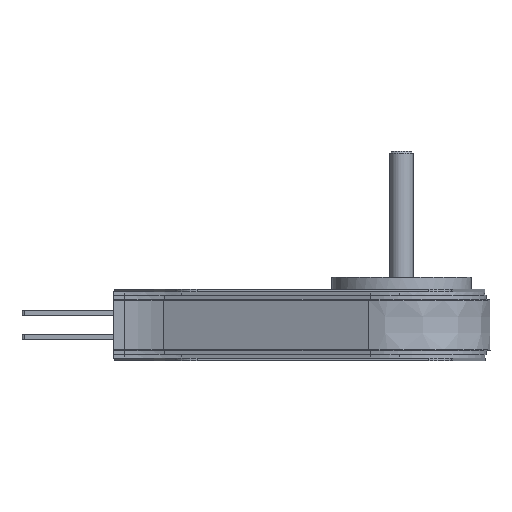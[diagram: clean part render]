
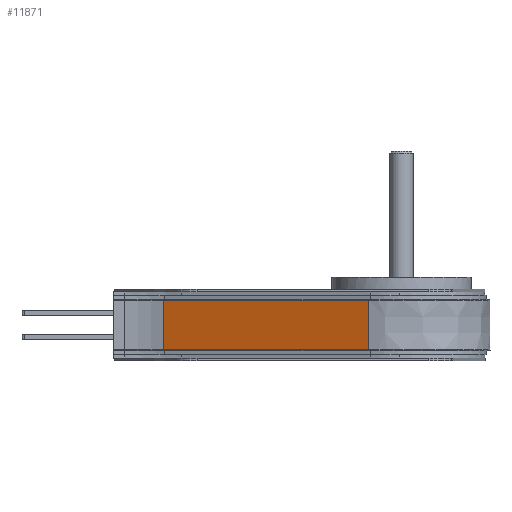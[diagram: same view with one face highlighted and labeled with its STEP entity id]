
A CAD part, front view. The second image highlights one B-rep face of the part: STEP entity #11871.
In plain terms, the highlighted planar face has unit normal (-0.373, -0.928, 0).
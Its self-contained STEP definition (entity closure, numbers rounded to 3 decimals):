
#265 = DIRECTION ( 'NONE',  ( -0.373, -0.928, 0. ) ) ;
#1340 = ORIENTED_EDGE ( 'NONE', *, *, #17311, .T. ) ;
#1656 = CARTESIAN_POINT ( 'NONE',  ( -28.41, -70.61, 21.5 ) ) ;
#2043 = PLANE ( 'NONE',  #12005 ) ;
#2457 = ORIENTED_EDGE ( 'NONE', *, *, #11935, .T. ) ;
#3072 = LINE ( 'NONE', #18464, #19504 ) ;
#4104 = VERTEX_POINT ( 'NONE', #16719 ) ;
#4889 = ORIENTED_EDGE ( 'NONE', *, *, #17570, .F. ) ;
#5056 = VECTOR ( 'NONE', #12836, 1000. ) ;
#5062 = ORIENTED_EDGE ( 'NONE', *, *, #8138, .F. ) ;
#5590 = DIRECTION ( 'NONE',  ( 0., 0., 1. ) ) ;
#5725 = CARTESIAN_POINT ( 'NONE',  ( -28.41, -70.61, 0. ) ) ;
#7168 = CARTESIAN_POINT ( 'NONE',  ( -28.41, -70.61, 0. ) ) ;
#8035 = VERTEX_POINT ( 'NONE', #12172 ) ;
#8138 = EDGE_CURVE ( 'NONE', #21308, #4104, #22424, .T. ) ;
#9283 = VECTOR ( 'NONE', #20726, 1000. ) ;
#11251 = VERTEX_POINT ( 'NONE', #20216 ) ;
#11871 = ADVANCED_FACE ( 'NONE', ( #16362 ), #2043, .T. ) ;
#11935 = EDGE_CURVE ( 'NONE', #11251, #8035, #18505, .T. ) ;
#12005 = AXIS2_PLACEMENT_3D ( 'NONE', #7168, #265, #15612 ) ;
#12172 = CARTESIAN_POINT ( 'NONE',  ( -28.41, -70.61, 21.5 ) ) ;
#12688 = DIRECTION ( 'NONE',  ( -0.928, 0.373, 0. ) ) ;
#12836 = DIRECTION ( 'NONE',  ( 0., 0., 1. ) ) ;
#14148 = CARTESIAN_POINT ( 'NONE',  ( -205.395, 0.6, -21.5 ) ) ;
#14214 = CARTESIAN_POINT ( 'NONE',  ( -205.395, 0.6, 0. ) ) ;
#15612 = DIRECTION ( 'NONE',  ( 0.928, -0.373, 0. ) ) ;
#16362 = FACE_OUTER_BOUND ( 'NONE', #19871, .T. ) ;
#16574 = LINE ( 'NONE', #1656, #9283 ) ;
#16719 = CARTESIAN_POINT ( 'NONE',  ( -205.395, 0.6, 21.5 ) ) ;
#17311 = EDGE_CURVE ( 'NONE', #8035, #4104, #16574, .T. ) ;
#17570 = EDGE_CURVE ( 'NONE', #11251, #21308, #3072, .T. ) ;
#18464 = CARTESIAN_POINT ( 'NONE',  ( -28.41, -70.61, -21.5 ) ) ;
#18505 = LINE ( 'NONE', #5725, #5056 ) ;
#19504 = VECTOR ( 'NONE', #12688, 1000. ) ;
#19871 = EDGE_LOOP ( 'NONE', ( #2457, #1340, #5062, #4889 ) ) ;
#20216 = CARTESIAN_POINT ( 'NONE',  ( -28.41, -70.61, -21.5 ) ) ;
#20726 = DIRECTION ( 'NONE',  ( -0.928, 0.373, 0. ) ) ;
#21308 = VERTEX_POINT ( 'NONE', #14148 ) ;
#21587 = VECTOR ( 'NONE', #5590, 1000. ) ;
#22424 = LINE ( 'NONE', #14214, #21587 ) ;
